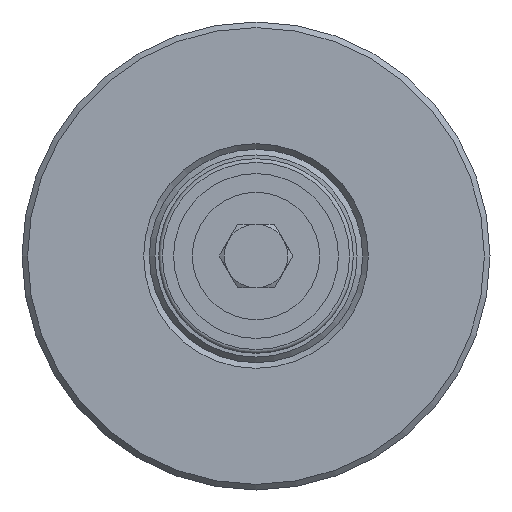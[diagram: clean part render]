
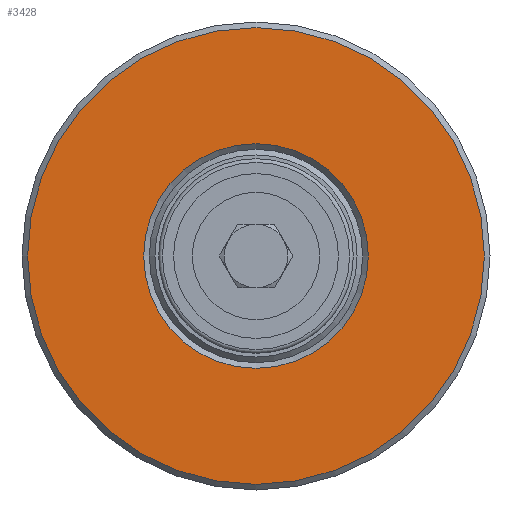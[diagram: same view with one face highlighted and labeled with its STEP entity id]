
A CAD part, left-side view. The second image highlights one B-rep face of the part: STEP entity #3428.
In plain terms, the highlighted planar face has unit normal (-1, 0, 0).
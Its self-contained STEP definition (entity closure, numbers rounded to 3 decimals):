
#682=FACE_BOUND('',#991,.T.);
#776=FACE_OUTER_BOUND('',#990,.T.);
#990=EDGE_LOOP('',(#2383));
#991=EDGE_LOOP('',(#2384));
#1284=CIRCLE('',#3660,30.);
#1285=CIRCLE('',#3662,61.);
#1529=VERTEX_POINT('',#5288);
#1530=VERTEX_POINT('',#5291);
#1882=EDGE_CURVE('',#1529,#1529,#1284,.T.);
#1883=EDGE_CURVE('',#1530,#1530,#1285,.T.);
#2383=ORIENTED_EDGE('',*,*,#1883,.F.);
#2384=ORIENTED_EDGE('',*,*,#1882,.T.);
#3360=PLANE('',#3661);
#3428=ADVANCED_FACE('',(#776,#682),#3360,.T.);
#3660=AXIS2_PLACEMENT_3D('',#5289,#4158,#4159);
#3661=AXIS2_PLACEMENT_3D('',#5290,#4160,#4161);
#3662=AXIS2_PLACEMENT_3D('',#5292,#4162,#4163);
#4158=DIRECTION('center_axis',(1.,0.,0.));
#4159=DIRECTION('ref_axis',(0.,1.,0.));
#4160=DIRECTION('center_axis',(-1.,0.,0.));
#4161=DIRECTION('ref_axis',(0.,0.,1.));
#4162=DIRECTION('center_axis',(1.,0.,0.));
#4163=DIRECTION('ref_axis',(0.,1.,0.));
#5288=CARTESIAN_POINT('',(-20.,30.,0.));
#5289=CARTESIAN_POINT('Origin',(-20.,0.,0.));
#5290=CARTESIAN_POINT('Origin',(-20.,45.5,0.));
#5291=CARTESIAN_POINT('',(-20.,61.,0.));
#5292=CARTESIAN_POINT('Origin',(-20.,0.,0.));
